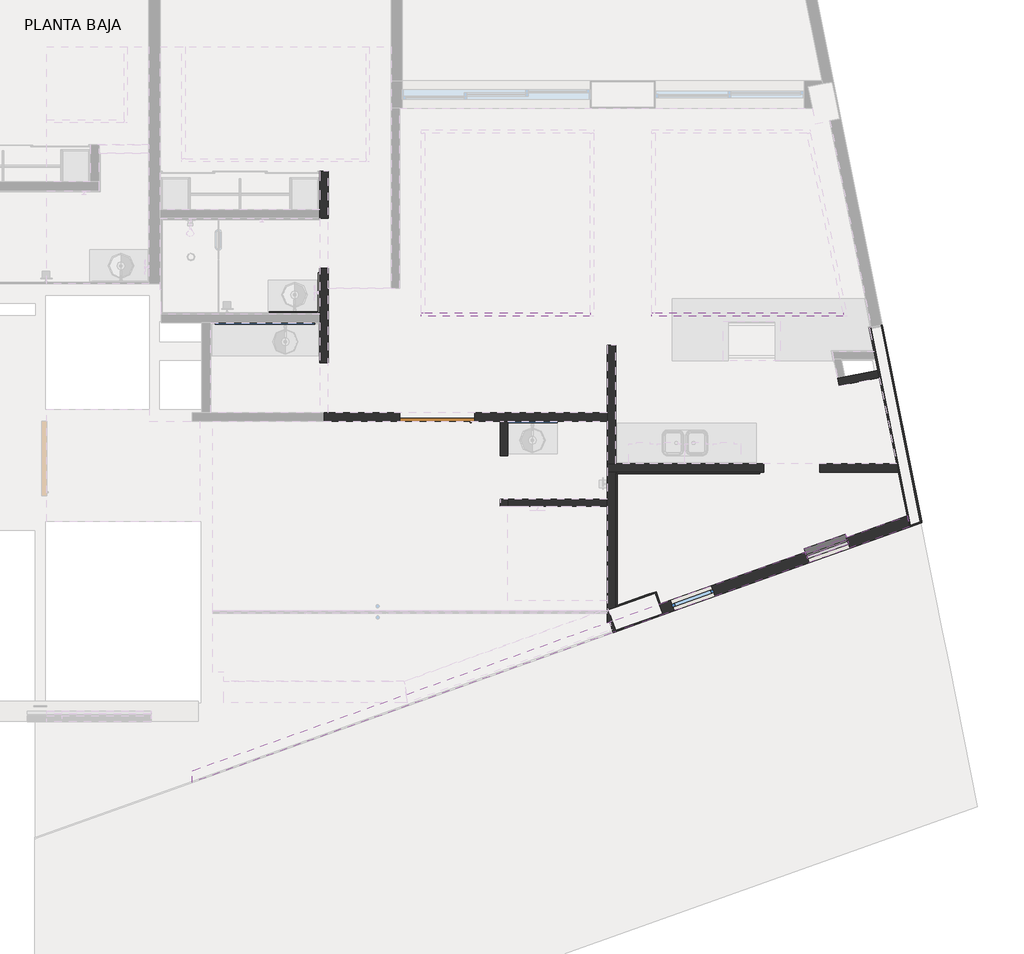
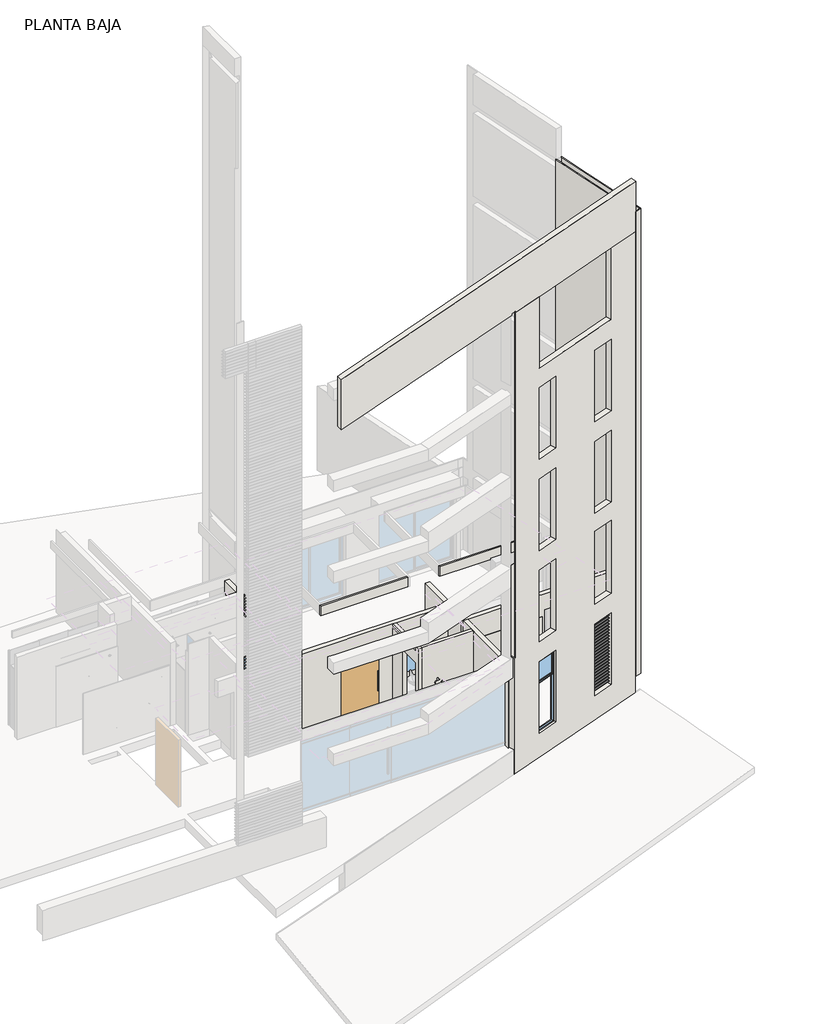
# One storey, part 5 of 8: 24 plates, 23 members, 20 walls, 4 windows, 1 door.
"""IFC4 building model written with IfcOpenShell, lengths in millimetres."""

from ifc_helpers import new_model, si_unit, origin, origin_with_axes, place, context, project, spatial, polyline, outline, extrude, faceted_brep, transform, mapped, element, save
from components import door_120_x_220_cm_93c824b4, montante_rectangular_montante_rectangular_1_5x5_1b1c74e0, plate_91745229, window_25a9a49d, window_47e7c2ce, window_0ac24249, window_e1a14afa

model = new_model("IFC4")

# Units and contexts
model_context = context("Model", 3, world=origin())
ifc_project = project(units=[si_unit("LENGTHUNIT", "METRE", prefix="MILLI")], contexts=[model_context])

# Site, building, storey
site = spatial("IfcSite", under=ifc_project)
building = spatial("IfcBuilding", under=site)
storey = spatial("IfcBuildingStorey", under=building, Name="PLANTA BAJA", Elevation=0.0)

# Door
placement = place(None, origin())
door_120_x_220_cm_shape = door_120_x_220_cm_93c824b4(model_context)
element("IfcDoor", 1, ObjectType="PUERTA ACCESO_PIVOT : 120 x 220 cm", at=placement, inside=storey, context=model_context, shape_type="MappedRepresentation", body=[
    mapped(door_120_x_220_cm_shape, transform((47131.3724956, 29794.010184, 0.0), x_axis=(-1.0, 0.0, 0.0), y_axis=(0.0, -1.0, 0.0), z_axis=(0.0, 0.0, 1.0))),
])

# Members
montante_rectangular_montante_rectangular_1_5x5_shape = montante_rectangular_montante_rectangular_1_5x5_1b1c74e0(model_context)
element("IfcMember", 2, ObjectType="Montante rectangular : Montante rectangular - 1.5x5", at=placement, inside=storey, context=model_context, shape_type="MappedRepresentation", body=[
    mapped(montante_rectangular_montante_rectangular_1_5x5_shape, transform((53319.7231991, 27770.5085935, 91.0416667), x_axis=(0.0, 0.0, 1.0), y_axis=(0.3356769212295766, -0.9419771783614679, 0.0), z_axis=(0.9419771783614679, 0.3356769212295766, 0.0))),
])
element("IfcMember", 3, ObjectType="Montante rectangular : Montante rectangular - 1.5x5", at=placement, inside=storey, context=model_context, shape_type="MappedRepresentation", body=[
    mapped(montante_rectangular_montante_rectangular_1_5x5_shape, transform((53319.7231991, 27770.5085935, 189.5833333), x_axis=(0.0, 0.0, 1.0), y_axis=(0.3356769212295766, -0.9419771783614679, 0.0), z_axis=(0.9419771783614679, 0.3356769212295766, 0.0))),
])
element("IfcMember", 4, ObjectType="Montante rectangular : Montante rectangular - 1.5x5", at=placement, inside=storey, context=model_context, shape_type="MappedRepresentation", body=[
    mapped(montante_rectangular_montante_rectangular_1_5x5_shape, transform((53319.7231991, 27770.5085935, 288.125), x_axis=(0.0, 0.0, 1.0), y_axis=(0.3356769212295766, -0.9419771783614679, 0.0), z_axis=(0.9419771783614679, 0.3356769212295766, 0.0))),
])
element("IfcMember", 5, ObjectType="Montante rectangular : Montante rectangular - 1.5x5", at=placement, inside=storey, context=model_context, shape_type="MappedRepresentation", body=[
    mapped(montante_rectangular_montante_rectangular_1_5x5_shape, transform((53319.7231991, 27770.5085935, 386.6666667), x_axis=(0.0, 0.0, 1.0), y_axis=(0.3356769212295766, -0.9419771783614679, 0.0), z_axis=(0.9419771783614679, 0.3356769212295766, 0.0))),
])
element("IfcMember", 6, ObjectType="Montante rectangular : Montante rectangular - 1.5x5", at=placement, inside=storey, context=model_context, shape_type="MappedRepresentation", body=[
    mapped(montante_rectangular_montante_rectangular_1_5x5_shape, transform((53319.7231991, 27770.5085935, 485.2083333), x_axis=(0.0, 0.0, 1.0), y_axis=(0.3356769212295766, -0.9419771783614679, 0.0), z_axis=(0.9419771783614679, 0.3356769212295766, 0.0))),
])
element("IfcMember", 7, ObjectType="Montante rectangular : Montante rectangular - 1.5x5", at=placement, inside=storey, context=model_context, shape_type="MappedRepresentation", body=[
    mapped(montante_rectangular_montante_rectangular_1_5x5_shape, transform((53319.7231991, 27770.5085935, 583.75), x_axis=(0.0, 0.0, 1.0), y_axis=(0.3356769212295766, -0.9419771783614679, 0.0), z_axis=(0.9419771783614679, 0.3356769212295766, 0.0))),
])
element("IfcMember", 8, ObjectType="Montante rectangular : Montante rectangular - 1.5x5", at=placement, inside=storey, context=model_context, shape_type="MappedRepresentation", body=[
    mapped(montante_rectangular_montante_rectangular_1_5x5_shape, transform((53319.7231991, 27770.5085935, 682.2916667), x_axis=(0.0, 0.0, 1.0), y_axis=(0.3356769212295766, -0.9419771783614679, 0.0), z_axis=(0.9419771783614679, 0.3356769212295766, 0.0))),
])
element("IfcMember", 9, ObjectType="Montante rectangular : Montante rectangular - 1.5x5", at=placement, inside=storey, context=model_context, shape_type="MappedRepresentation", body=[
    mapped(montante_rectangular_montante_rectangular_1_5x5_shape, transform((53319.7231991, 27770.5085935, 780.8333333), x_axis=(0.0, 0.0, 1.0), y_axis=(0.3356769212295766, -0.9419771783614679, 0.0), z_axis=(0.9419771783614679, 0.3356769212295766, 0.0))),
])
element("IfcMember", 10, ObjectType="Montante rectangular : Montante rectangular - 1.5x5", at=placement, inside=storey, context=model_context, shape_type="MappedRepresentation", body=[
    mapped(montante_rectangular_montante_rectangular_1_5x5_shape, transform((53319.7231991, 27770.5085935, 879.375), x_axis=(0.0, 0.0, 1.0), y_axis=(0.3356769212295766, -0.9419771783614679, 0.0), z_axis=(0.9419771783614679, 0.3356769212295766, 0.0))),
])
element("IfcMember", 11, ObjectType="Montante rectangular : Montante rectangular - 1.5x5", at=placement, inside=storey, context=model_context, shape_type="MappedRepresentation", body=[
    mapped(montante_rectangular_montante_rectangular_1_5x5_shape, transform((53319.7231991, 27770.5085935, 977.9166667), x_axis=(0.0, 0.0, 1.0), y_axis=(0.3356769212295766, -0.9419771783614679, 0.0), z_axis=(0.9419771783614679, 0.3356769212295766, 0.0))),
])
element("IfcMember", 12, ObjectType="Montante rectangular : Montante rectangular - 1.5x5", at=placement, inside=storey, context=model_context, shape_type="MappedRepresentation", body=[
    mapped(montante_rectangular_montante_rectangular_1_5x5_shape, transform((53319.7231991, 27770.5085935, 1076.4583333), x_axis=(0.0, 0.0, 1.0), y_axis=(0.3356769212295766, -0.9419771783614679, 0.0), z_axis=(0.9419771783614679, 0.3356769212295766, 0.0))),
])
element("IfcMember", 13, ObjectType="Montante rectangular : Montante rectangular - 1.5x5", at=placement, inside=storey, context=model_context, shape_type="MappedRepresentation", body=[
    mapped(montante_rectangular_montante_rectangular_1_5x5_shape, transform((53319.7231991, 27770.5085935, 1175.0), x_axis=(0.0, 0.0, 1.0), y_axis=(0.3356769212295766, -0.9419771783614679, 0.0), z_axis=(0.9419771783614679, 0.3356769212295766, 0.0))),
])
element("IfcMember", 14, ObjectType="Montante rectangular : Montante rectangular - 1.5x5", at=placement, inside=storey, context=model_context, shape_type="MappedRepresentation", body=[
    mapped(montante_rectangular_montante_rectangular_1_5x5_shape, transform((53319.7231991, 27770.5085935, 1273.5416667), x_axis=(0.0, 0.0, 1.0), y_axis=(0.3356769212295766, -0.9419771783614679, 0.0), z_axis=(0.9419771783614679, 0.3356769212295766, 0.0))),
])
element("IfcMember", 15, ObjectType="Montante rectangular : Montante rectangular - 1.5x5", at=placement, inside=storey, context=model_context, shape_type="MappedRepresentation", body=[
    mapped(montante_rectangular_montante_rectangular_1_5x5_shape, transform((53319.7231991, 27770.5085935, 1372.0833333), x_axis=(0.0, 0.0, 1.0), y_axis=(0.3356769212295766, -0.9419771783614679, 0.0), z_axis=(0.9419771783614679, 0.3356769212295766, 0.0))),
])
element("IfcMember", 16, ObjectType="Montante rectangular : Montante rectangular - 1.5x5", at=placement, inside=storey, context=model_context, shape_type="MappedRepresentation", body=[
    mapped(montante_rectangular_montante_rectangular_1_5x5_shape, transform((53319.7231991, 27770.5085935, 1470.625), x_axis=(0.0, 0.0, 1.0), y_axis=(0.3356769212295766, -0.9419771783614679, 0.0), z_axis=(0.9419771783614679, 0.3356769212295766, 0.0))),
])
element("IfcMember", 17, ObjectType="Montante rectangular : Montante rectangular - 1.5x5", at=placement, inside=storey, context=model_context, shape_type="MappedRepresentation", body=[
    mapped(montante_rectangular_montante_rectangular_1_5x5_shape, transform((53319.7231991, 27770.5085935, 1569.1666667), x_axis=(0.0, 0.0, 1.0), y_axis=(0.3356769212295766, -0.9419771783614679, 0.0), z_axis=(0.9419771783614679, 0.3356769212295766, 0.0))),
])
element("IfcMember", 18, ObjectType="Montante rectangular : Montante rectangular - 1.5x5", at=placement, inside=storey, context=model_context, shape_type="MappedRepresentation", body=[
    mapped(montante_rectangular_montante_rectangular_1_5x5_shape, transform((53319.7231991, 27770.5085935, 1667.7083333), x_axis=(0.0, 0.0, 1.0), y_axis=(0.3356769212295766, -0.9419771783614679, 0.0), z_axis=(0.9419771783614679, 0.3356769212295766, 0.0))),
])
element("IfcMember", 19, ObjectType="Montante rectangular : Montante rectangular - 1.5x5", at=placement, inside=storey, context=model_context, shape_type="MappedRepresentation", body=[
    mapped(montante_rectangular_montante_rectangular_1_5x5_shape, transform((53319.7231991, 27770.5085935, 1766.25), x_axis=(0.0, 0.0, 1.0), y_axis=(0.3356769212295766, -0.9419771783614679, 0.0), z_axis=(0.9419771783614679, 0.3356769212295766, 0.0))),
])
element("IfcMember", 20, ObjectType="Montante rectangular : Montante rectangular - 1.5x5", at=placement, inside=storey, context=model_context, shape_type="MappedRepresentation", body=[
    mapped(montante_rectangular_montante_rectangular_1_5x5_shape, transform((53319.7231991, 27770.5085935, 1864.7916667), x_axis=(0.0, 0.0, 1.0), y_axis=(0.3356769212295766, -0.9419771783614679, 0.0), z_axis=(0.9419771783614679, 0.3356769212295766, 0.0))),
])
element("IfcMember", 21, ObjectType="Montante rectangular : Montante rectangular - 1.5x5", at=placement, inside=storey, context=model_context, shape_type="MappedRepresentation", body=[
    mapped(montante_rectangular_montante_rectangular_1_5x5_shape, transform((53319.7231991, 27770.5085935, 1963.3333333), x_axis=(0.0, 0.0, 1.0), y_axis=(0.3356769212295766, -0.9419771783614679, 0.0), z_axis=(0.9419771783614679, 0.3356769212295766, 0.0))),
])
element("IfcMember", 22, ObjectType="Montante rectangular : Montante rectangular - 1.5x5", at=placement, inside=storey, context=model_context, shape_type="MappedRepresentation", body=[
    mapped(montante_rectangular_montante_rectangular_1_5x5_shape, transform((53319.7231991, 27770.5085935, 2061.875), x_axis=(0.0, 0.0, 1.0), y_axis=(0.3356769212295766, -0.9419771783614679, 0.0), z_axis=(0.9419771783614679, 0.3356769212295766, 0.0))),
])
element("IfcMember", 23, ObjectType="Montante rectangular : Montante rectangular - 1.5x5", at=placement, inside=storey, context=model_context, shape_type="MappedRepresentation", body=[
    mapped(montante_rectangular_montante_rectangular_1_5x5_shape, transform((53319.7231991, 27770.5085935, 2160.4166667), x_axis=(0.0, 0.0, 1.0), y_axis=(0.3356769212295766, -0.9419771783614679, 0.0), z_axis=(0.9419771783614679, 0.3356769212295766, 0.0))),
])
element("IfcMember", 24, ObjectType="Montante rectangular : Montante rectangular - 1.5x5", at=placement, inside=storey, context=model_context, shape_type="MappedRepresentation", body=[
    mapped(montante_rectangular_montante_rectangular_1_5x5_shape, transform((53319.7231991, 27770.5085935, 2258.9583333), x_axis=(0.0, 0.0, 1.0), y_axis=(0.3356769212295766, -0.9419771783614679, 0.0), z_axis=(0.9419771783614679, 0.3356769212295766, 0.0))),
])

# Plates
plate_shape = plate_91745229(model_context)
element("IfcPlate", 25, ObjectType="Panel del sistema vacío : Vacío", at=placement, inside=storey, context=model_context, shape_type="MappedRepresentation", body=[
    mapped(plate_shape, transform((52990.0311866, 27653.021671, 0.0), x_axis=(0.9419771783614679, 0.3356769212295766, 0.0), y_axis=(-0.3356769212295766, 0.9419771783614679, 0.0), z_axis=(0.0, 0.0, 1.0))),
])
element("IfcPlate", 26, ObjectType="Panel del sistema vacío : Vacío", at=placement, inside=storey, context=model_context, shape_type="MappedRepresentation", body=[
    mapped(plate_shape, transform((52990.0311866, 27653.021671, 98.5416667), x_axis=(0.9419771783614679, 0.3356769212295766, 0.0), y_axis=(-0.3356769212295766, 0.9419771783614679, 0.0), z_axis=(0.0, 0.0, 1.0))),
])
element("IfcPlate", 27, ObjectType="Panel del sistema vacío : Vacío", at=placement, inside=storey, context=model_context, shape_type="MappedRepresentation", body=[
    mapped(plate_shape, transform((52990.0311866, 27653.021671, 197.0833333), x_axis=(0.9419771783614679, 0.3356769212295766, 0.0), y_axis=(-0.3356769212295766, 0.9419771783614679, 0.0), z_axis=(0.0, 0.0, 1.0))),
])
element("IfcPlate", 28, ObjectType="Panel del sistema vacío : Vacío", at=placement, inside=storey, context=model_context, shape_type="MappedRepresentation", body=[
    mapped(plate_shape, transform((52990.0311866, 27653.021671, 295.625), x_axis=(0.9419771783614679, 0.3356769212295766, 0.0), y_axis=(-0.3356769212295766, 0.9419771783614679, 0.0), z_axis=(0.0, 0.0, 1.0))),
])
element("IfcPlate", 29, ObjectType="Panel del sistema vacío : Vacío", at=placement, inside=storey, context=model_context, shape_type="MappedRepresentation", body=[
    mapped(plate_shape, transform((52990.0311866, 27653.021671, 394.1666667), x_axis=(0.9419771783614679, 0.3356769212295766, 0.0), y_axis=(-0.3356769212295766, 0.9419771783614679, 0.0), z_axis=(0.0, 0.0, 1.0))),
])
element("IfcPlate", 30, ObjectType="Panel del sistema vacío : Vacío", at=placement, inside=storey, context=model_context, shape_type="MappedRepresentation", body=[
    mapped(plate_shape, transform((52990.0311866, 27653.021671, 492.7083333), x_axis=(0.9419771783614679, 0.3356769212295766, 0.0), y_axis=(-0.3356769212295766, 0.9419771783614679, 0.0), z_axis=(0.0, 0.0, 1.0))),
])
element("IfcPlate", 31, ObjectType="Panel del sistema vacío : Vacío", at=placement, inside=storey, context=model_context, shape_type="MappedRepresentation", body=[
    mapped(plate_shape, transform((52990.0311866, 27653.021671, 591.25), x_axis=(0.9419771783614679, 0.3356769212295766, 0.0), y_axis=(-0.3356769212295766, 0.9419771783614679, 0.0), z_axis=(0.0, 0.0, 1.0))),
])
element("IfcPlate", 32, ObjectType="Panel del sistema vacío : Vacío", at=placement, inside=storey, context=model_context, shape_type="MappedRepresentation", body=[
    mapped(plate_shape, transform((52990.0311866, 27653.021671, 689.7916667), x_axis=(0.9419771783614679, 0.3356769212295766, 0.0), y_axis=(-0.3356769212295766, 0.9419771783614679, 0.0), z_axis=(0.0, 0.0, 1.0))),
])
element("IfcPlate", 33, ObjectType="Panel del sistema vacío : Vacío", at=placement, inside=storey, context=model_context, shape_type="MappedRepresentation", body=[
    mapped(plate_shape, transform((52990.0311866, 27653.021671, 788.3333333), x_axis=(0.9419771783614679, 0.3356769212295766, 0.0), y_axis=(-0.3356769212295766, 0.9419771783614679, 0.0), z_axis=(0.0, 0.0, 1.0))),
])
element("IfcPlate", 34, ObjectType="Panel del sistema vacío : Vacío", at=placement, inside=storey, context=model_context, shape_type="MappedRepresentation", body=[
    mapped(plate_shape, transform((52990.0311866, 27653.021671, 886.875), x_axis=(0.9419771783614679, 0.3356769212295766, 0.0), y_axis=(-0.3356769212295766, 0.9419771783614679, 0.0), z_axis=(0.0, 0.0, 1.0))),
])
element("IfcPlate", 35, ObjectType="Panel del sistema vacío : Vacío", at=placement, inside=storey, context=model_context, shape_type="MappedRepresentation", body=[
    mapped(plate_shape, transform((52990.0311866, 27653.021671, 985.4166667), x_axis=(0.9419771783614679, 0.3356769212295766, 0.0), y_axis=(-0.3356769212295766, 0.9419771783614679, 0.0), z_axis=(0.0, 0.0, 1.0))),
])
element("IfcPlate", 36, ObjectType="Panel del sistema vacío : Vacío", at=placement, inside=storey, context=model_context, shape_type="MappedRepresentation", body=[
    mapped(plate_shape, transform((52990.0311866, 27653.021671, 1083.9583333), x_axis=(0.9419771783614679, 0.3356769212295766, 0.0), y_axis=(-0.3356769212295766, 0.9419771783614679, 0.0), z_axis=(0.0, 0.0, 1.0))),
])
element("IfcPlate", 37, ObjectType="Panel del sistema vacío : Vacío", at=placement, inside=storey, context=model_context, shape_type="MappedRepresentation", body=[
    mapped(plate_shape, transform((52990.0311866, 27653.021671, 1182.5), x_axis=(0.9419771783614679, 0.3356769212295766, 0.0), y_axis=(-0.3356769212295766, 0.9419771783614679, 0.0), z_axis=(0.0, 0.0, 1.0))),
])
element("IfcPlate", 38, ObjectType="Panel del sistema vacío : Vacío", at=placement, inside=storey, context=model_context, shape_type="MappedRepresentation", body=[
    mapped(plate_shape, transform((52990.0311866, 27653.021671, 1281.0416667), x_axis=(0.9419771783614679, 0.3356769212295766, 0.0), y_axis=(-0.3356769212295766, 0.9419771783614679, 0.0), z_axis=(0.0, 0.0, 1.0))),
])
element("IfcPlate", 39, ObjectType="Panel del sistema vacío : Vacío", at=placement, inside=storey, context=model_context, shape_type="MappedRepresentation", body=[
    mapped(plate_shape, transform((52990.0311866, 27653.021671, 1379.5833333), x_axis=(0.9419771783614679, 0.3356769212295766, 0.0), y_axis=(-0.3356769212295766, 0.9419771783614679, 0.0), z_axis=(0.0, 0.0, 1.0))),
])
element("IfcPlate", 40, ObjectType="Panel del sistema vacío : Vacío", at=placement, inside=storey, context=model_context, shape_type="MappedRepresentation", body=[
    mapped(plate_shape, transform((52990.0311866, 27653.021671, 1478.125), x_axis=(0.9419771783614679, 0.3356769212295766, 0.0), y_axis=(-0.3356769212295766, 0.9419771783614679, 0.0), z_axis=(0.0, 0.0, 1.0))),
])
element("IfcPlate", 41, ObjectType="Panel del sistema vacío : Vacío", at=placement, inside=storey, context=model_context, shape_type="MappedRepresentation", body=[
    mapped(plate_shape, transform((52990.0311866, 27653.021671, 1576.6666667), x_axis=(0.9419771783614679, 0.3356769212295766, 0.0), y_axis=(-0.3356769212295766, 0.9419771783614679, 0.0), z_axis=(0.0, 0.0, 1.0))),
])
element("IfcPlate", 42, ObjectType="Panel del sistema vacío : Vacío", at=placement, inside=storey, context=model_context, shape_type="MappedRepresentation", body=[
    mapped(plate_shape, transform((52990.0311866, 27653.021671, 1675.2083333), x_axis=(0.9419771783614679, 0.3356769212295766, 0.0), y_axis=(-0.3356769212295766, 0.9419771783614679, 0.0), z_axis=(0.0, 0.0, 1.0))),
])
element("IfcPlate", 43, ObjectType="Panel del sistema vacío : Vacío", at=placement, inside=storey, context=model_context, shape_type="MappedRepresentation", body=[
    mapped(plate_shape, transform((52990.0311866, 27653.021671, 1773.75), x_axis=(0.9419771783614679, 0.3356769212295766, 0.0), y_axis=(-0.3356769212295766, 0.9419771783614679, 0.0), z_axis=(0.0, 0.0, 1.0))),
])
element("IfcPlate", 44, ObjectType="Panel del sistema vacío : Vacío", at=placement, inside=storey, context=model_context, shape_type="MappedRepresentation", body=[
    mapped(plate_shape, transform((52990.0311866, 27653.021671, 1872.2916667), x_axis=(0.9419771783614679, 0.3356769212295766, 0.0), y_axis=(-0.3356769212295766, 0.9419771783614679, 0.0), z_axis=(0.0, 0.0, 1.0))),
])
element("IfcPlate", 45, ObjectType="Panel del sistema vacío : Vacío", at=placement, inside=storey, context=model_context, shape_type="MappedRepresentation", body=[
    mapped(plate_shape, transform((52990.0311866, 27653.021671, 1970.8333333), x_axis=(0.9419771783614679, 0.3356769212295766, 0.0), y_axis=(-0.3356769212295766, 0.9419771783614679, 0.0), z_axis=(0.0, 0.0, 1.0))),
])
element("IfcPlate", 46, ObjectType="Panel del sistema vacío : Vacío", at=placement, inside=storey, context=model_context, shape_type="MappedRepresentation", body=[
    mapped(plate_shape, transform((52990.0311866, 27653.021671, 2069.375), x_axis=(0.9419771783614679, 0.3356769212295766, 0.0), y_axis=(-0.3356769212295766, 0.9419771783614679, 0.0), z_axis=(0.0, 0.0, 1.0))),
])
element("IfcPlate", 47, ObjectType="Panel del sistema vacío : Vacío", at=placement, inside=storey, context=model_context, shape_type="MappedRepresentation", body=[
    mapped(plate_shape, transform((52990.0311866, 27653.021671, 2167.9166667), x_axis=(0.9419771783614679, 0.3356769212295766, 0.0), y_axis=(-0.3356769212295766, 0.9419771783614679, 0.0), z_axis=(0.0, 0.0, 1.0))),
])
element("IfcPlate", 48, ObjectType="Panel del sistema vacío : Vacío", at=placement, inside=storey, context=model_context, shape_type="MappedRepresentation", body=[
    mapped(plate_shape, transform((52990.0311866, 27653.021671, 2266.4583333), x_axis=(0.9419771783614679, 0.3356769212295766, 0.0), y_axis=(-0.3356769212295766, 0.9419771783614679, 0.0), z_axis=(0.0, 0.0, 1.0))),
])

# Walls
element("IfcWall", 49, ObjectType="Muro block 12cms_int_ductos", at=placement, inside=storey, context=model_context, shape_type="Brep", body=[
    faceted_brep([(53171.4946911, 30294.866239, 0.0), (53820.4344465, 30424.8416261, 0.0), (53820.4344465, 30424.8416261, 3000.0), (53171.4946911, 30294.866239, 3000.0), (53147.9280777, 30412.5293799, 0.0), (53147.9280777, 30412.5293799, 3000.0), (53265.5912187, 30436.0959933, 3000.0), (53796.8678331, 30542.5047671, 3000.0), (53796.8678331, 30542.5047671, 0.0), (53265.5912187, 30436.0959933, 0.0)], [[[0, 1, 2, 3]], [[4, 5, 6, 7, 8, 9]], [[1, 0, 4, 9, 8]], [[3, 2, 7, 6, 5]], [[0, 3, 5, 4]], [[2, 1, 8, 7]]]),
])
element("IfcWall", 50, ObjectType="TABLAROCA - 2 CAPAS 1/2\"", at=placement, inside=storey, context=model_context, shape_type="Brep", body=[
    faceted_brep([(47727.1059119, 28356.610184, 2720.0), (47727.1059119, 29724.010184, 2720.0), (47727.1059119, 29724.010184, 2652.7), (47727.1059119, 28474.010184, 2652.7), (47727.1059119, 28474.010184, 2600.0), (47727.1059119, 29724.010184, 2600.0), (47727.1059119, 29724.010184, 0.0), (47727.1059119, 29174.010184, 0.0), (47727.1059119, 29174.010184, 2200.0), (47727.1059119, 28474.010184, 2200.0), (47727.1059119, 28474.010184, 0.0), (47727.1059119, 28356.610184, 0.0), (47727.1059119, 28356.610184, 2600.0), (47727.1059119, 28356.610184, 2652.7), (47844.5059119, 29724.010184, 2720.0), (47844.5059119, 28474.010184, 2720.0), (47844.5059119, 28356.610184, 2720.0), (47844.5059119, 28356.610184, 2652.7), (47844.5059119, 28356.610184, 2600.0), (47844.5059119, 28356.610184, 0.0), (47844.5059119, 28474.010184, 0.0), (47844.5059119, 28474.010184, 2200.0), (47844.5059119, 29174.010184, 2200.0), (47844.5059119, 29174.010184, 0.0), (47844.5059119, 29724.010184, 0.0), (47844.5059119, 29724.010184, 2600.0), (47844.5059119, 28474.010184, 2600.0), (47844.5059119, 28474.010184, 2652.7), (47844.5059119, 29724.010184, 2652.7)], [[[0, 1, 2, 3, 4, 5, 6, 7, 8, 9, 10, 11, 12, 13]], [[14, 15, 16, 17, 18, 19, 20, 21, 22, 23, 24, 25, 26, 27, 28]], [[6, 24, 23, 7]], [[19, 11, 10, 20]], [[1, 0, 16, 15, 14]], [[1, 14, 28, 2]], [[24, 6, 5, 25]], [[11, 19, 18, 17, 16, 0, 13, 12]], [[10, 9, 21, 20]], [[9, 8, 22, 21]], [[8, 7, 23, 22]], [[27, 3, 2, 28]], [[4, 26, 25, 5]], [[3, 27, 26, 4]]]),
])
element("IfcWall", 51, ObjectType="TABLAROCA - 2 CAPAS 1/2\"", at=placement, inside=storey, context=model_context, shape_type="Brep", body=[
    faceted_brep([(47844.5059119, 28356.610184, 0.0), (49444.5059119, 28356.610184, 0.0), (49444.5059119, 28356.610184, 2720.0), (47844.5059119, 28356.610184, 2720.0), (47844.5059119, 28474.010184, 0.0), (47844.5059119, 28474.010184, 2200.0), (47844.5059119, 28474.010184, 2600.0), (47844.5059119, 28474.010184, 2652.7), (47844.5059119, 28474.010184, 2720.0), (49444.5059119, 28474.010184, 2720.0), (49444.5059119, 28474.010184, 0.0)], [[[0, 1, 2, 3]], [[4, 5, 6, 7, 8, 9, 10]], [[1, 0, 4, 10]], [[3, 2, 9, 8]], [[0, 3, 8, 7, 6, 5, 4]], [[2, 1, 10, 9]]]),
])
element("IfcWall", 52, ObjectType="Plafond tablaroca", at=placement, inside=storey, context=model_context, shape_type="Brep", body=[
    faceted_brep([(49174.5059119, 31464.0100656, 2402.7), (46514.5059119, 31464.0100656, 2402.7), (46461.8059119, 31464.0100656, 2402.7), (46461.8059119, 31464.0100656, 2720.0), (46514.5059119, 31464.0100656, 2720.0), (49174.5059119, 31464.0100656, 2720.0), (49174.5059119, 31411.3100656, 2402.7), (49174.5059119, 31411.3100656, 2720.0), (46461.8059119, 31411.3100656, 2720.0), (46461.8059119, 31411.3100656, 2402.7)], [[[0, 1, 2, 3, 4, 5]], [[6, 7, 8, 9]], [[5, 4, 3, 8, 7]], [[0, 5, 7, 6]], [[3, 2, 9, 8]], [[2, 1, 0, 6, 9]]]),
])
element("IfcWall", 53, ObjectType="Plafond tablaroca", at=placement, inside=storey, context=model_context, shape_type="Brep", body=[
    faceted_brep([(53234.9521938, 31464.0100656, 2402.7), (50214.4822189, 31464.0100656, 2402.7), (50161.7822189, 31464.0100656, 2402.7), (50161.7822189, 31464.0100656, 2720.0), (50214.4822189, 31464.0100656, 2720.0), (53234.9521938, 31464.0100656, 2720.0), (53245.5074153, 31411.3100656, 2402.7), (53245.5074153, 31411.3100656, 2720.0), (50161.7822189, 31411.3100656, 2720.0), (50161.7822189, 31411.3100656, 2402.7)], [[[0, 1, 2, 3, 4, 5]], [[6, 7, 8, 9]], [[5, 4, 3, 8, 7]], [[0, 5, 7, 6]], [[3, 2, 9, 8]], [[2, 1, 0, 6, 9]]]),
])
element("IfcWall", 54, ObjectType="Muro solo enjarre -2cms", at=placement, inside=storey, context=model_context, shape_type="Brep", body=[
    faceted_brep([(53659.7028791, 31227.3405166, 15000.0), (53659.7028791, 31227.3405166, -280.0), (54265.4326509, 28203.0592396, -280.0), (54297.1864274, 28044.5193158, -280.0), (54297.1864274, 28044.5193158, 15000.0), (53820.4344465, 30424.8416261, 15000.0), (53796.8678331, 30542.5047671, 15000.0), (53760.5143431, 30724.0100923, 15000.0), (53736.479683, 30844.0100923, 15000.0), (53661.6667636, 31217.5352548, 15000.0), (53679.3134026, 31231.2682854, -280.0), (53679.3134026, 31231.2682854, 15000.0), (53683.2411715, 31211.657762, 15000.0), (54316.2248011, 28051.3037081, 15000.0), (54316.2248011, 28051.3037081, -280.0), (53683.2411715, 31211.657762, -280.0)], [[[0, 1, 2, 3, 4, 5, 6, 7, 8, 9]], [[10, 11, 12, 13, 14, 15]], [[3, 2, 1, 10, 15, 14]], [[0, 9, 8, 7, 6, 5, 4, 13, 12, 11]], [[3, 14, 13, 4]], [[0, 11, 10, 1]]]),
])
element("IfcWall", 55, ObjectType="Muro solo enjarre -2cms", at=placement, inside=storey, context=model_context, shape_type="Brep", body=[
    faceted_brep([(54301.1556495, 28024.7018254, -280.0), (54501.0585736, 28095.9379441, -280.0), (54501.0585736, 28095.9379441, 15000.0), (54301.1556495, 28024.7018254, 15000.0), (54301.1556495, 28024.7018254, 14350.0), (54497.0893515, 28115.7554346, -280.0), (54478.0509778, 28108.9710423, -280.0), (54316.2248011, 28051.3037081, -280.0), (54297.1864274, 28044.5193158, -280.0), (54297.1864274, 28044.5193158, 14350.0), (54297.1864274, 28044.5193158, 14720.0), (54297.1864274, 28044.5193158, 15000.0), (54316.2248011, 28051.3037081, 15000.0), (54478.0509778, 28108.9710423, 15000.0), (54497.0893515, 28115.7554346, 15000.0)], [[[0, 1, 2, 3, 4]], [[5, 6, 7, 8, 9, 10, 11, 12, 13, 14]], [[1, 0, 8, 7, 6, 5]], [[3, 2, 14, 13, 12, 11]], [[2, 1, 5, 14]], [[8, 0, 4, 3, 11, 10, 9]]]),
])
element("IfcWall", 56, ObjectType="Muro solo enjarre -2cms", at=placement, inside=storey, context=model_context, shape_type="Brep", body=[
    faceted_brep([(54497.0893515, 28115.7554346, -280.0), (53865.6133758, 31268.5820899, -280.0), (53865.6133758, 31268.5820899, 15000.0), (54074.829408, 30224.0104696, 15000.0), (54497.0893515, 28115.7554346, 15000.0), (54478.0509778, 28108.9710423, -280.0), (54478.0509778, 28108.9710423, 15000.0), (53849.9306212, 31245.0437975, 15000.0), (53846.0028523, 31264.654321, 15000.0), (53846.0028523, 31264.654321, 12000.0), (53846.0028523, 31264.654321, 11720.0), (53846.0028523, 31264.654321, 9000.0), (53846.0028523, 31264.654321, 8720.0), (53846.0028523, 31264.654321, 6000.0), (53846.0028523, 31264.654321, 5720.0), (53846.0028523, 31264.654321, 3000.0), (53846.0028523, 31264.654321, 2720.0), (53846.0028523, 31264.654321, 0.0), (53846.0028523, 31264.654321, -280.0), (53849.9306212, 31245.0437975, -280.0)], [[[0, 1, 2, 3, 4]], [[5, 6, 7, 8, 9, 10, 11, 12, 13, 14, 15, 16, 17, 18, 19]], [[1, 0, 5, 19, 18]], [[4, 3, 2, 8, 7, 6]], [[0, 4, 6, 5]], [[2, 1, 18, 17, 16, 15, 14, 13, 12, 11, 10, 9, 8]]]),
])
element("IfcWall", 57, ObjectType="Cerámica baño", at=placement, inside=storey, context=model_context, shape_type="SweptSolid", body=[
    extrude(outline(polyline([(44824.5251366, 32114.0113856), (44824.5251366, 31464.0104754), (44804.5251366, 31464.0104754), (44804.5251366, 32114.0113856), (44824.5251366, 32114.0113856)])), origin_with_axes(), (0.0, 0.0, 1.0), 1000.0),
])
element("IfcWall", 58, ObjectType="Cerámica baño", at=placement, inside=storey, context=model_context, shape_type="Brep", body=[
    faceted_brep([(51894.5059119, 28904.0100923, 0.0), (49584.5059119, 28904.0100923, 0.0), (49584.5059119, 28904.0100923, 2000.0), (51894.5059119, 28904.0100923, 2000.0), (51894.5059119, 28884.0100923, 0.0), (51894.5059119, 28884.0100923, 2000.0), (49604.5059119, 28884.0100923, 2000.0), (49584.5059119, 28884.0100923, 2000.0), (49584.5059119, 28884.0100923, 0.0), (49604.5059119, 28884.0100923, 0.0)], [[[0, 1, 2, 3]], [[4, 5, 6, 7, 8, 9]], [[1, 0, 4, 9, 8]], [[3, 2, 7, 6, 5]], [[0, 3, 5, 4]], [[2, 1, 8, 7]]]),
])
element("IfcWall", 59, ObjectType="Cerámica baño", at=placement, inside=storey, context=model_context, shape_type="SweptSolid", body=[
    extrude(outline(polyline([(49584.5059119, 26757.929668), (49584.5059119, 28884.0100923), (49604.5059119, 28884.0100923), (49604.5059119, 26765.0567392), (49584.5059119, 26757.929668)])), origin_with_axes(), (0.0, 0.0, 1.0), 2000.0),
])
element("IfcWall", 60, ObjectType="Muro block 14cms_int", at=placement, inside=storey, context=model_context, shape_type="Brep", body=[
    faceted_brep([(44894.5251366, 29724.010184, 2720.0), (44894.5251366, 29724.010184, 0.0), (46114.5059119, 29724.010184, 0.0), (46114.5059119, 29724.010184, 2200.0), (47314.5059119, 29724.010184, 2200.0), (47314.5059119, 29724.010184, 0.0), (47727.1059119, 29724.010184, 0.0), (47844.5059119, 29724.010184, 0.0), (49444.5059119, 29724.010184, 0.0), (49444.5059119, 29724.010184, 2720.0), (47844.5059119, 29724.010184, 2720.0), (47727.1059119, 29724.010184, 2720.0), (44894.5251366, 29864.010184, 0.0), (44894.5251366, 29864.010184, 2720.0), (44964.5251366, 29864.010184, 2720.0), (49444.5059119, 29864.010184, 2720.0), (49444.5059119, 29864.010184, 0.0), (47314.5059119, 29864.010184, 0.0), (47314.5059119, 29864.010184, 2200.0), (46114.5059119, 29864.010184, 2200.0), (46114.5059119, 29864.010184, 0.0)], [[[0, 1, 2, 3, 4, 5, 6, 7, 8, 9, 10, 11]], [[12, 13, 14, 15, 16, 17, 18, 19, 20]], [[1, 12, 20, 2]], [[16, 8, 7, 6, 5, 17]], [[1, 0, 13, 12]], [[19, 3, 2, 20]], [[3, 19, 18, 4]], [[4, 18, 17, 5]], [[0, 11, 10, 9, 15, 14, 13]], [[9, 8, 16, 15]]]),
])
element("IfcWall", 61, ObjectType="Muro block 14cms_int", at=placement, inside=storey, context=model_context, shape_type="Brep", body=[
    faceted_brep([(51964.5059119, 29044.0100923, 0.0), (49584.5059119, 29044.0100923, 0.0), (49444.5059119, 29044.0100923, 0.0), (49444.5059119, 29044.0100923, 2720.0), (49584.5059119, 29044.0100923, 2720.0), (54096.9995848, 29044.0100923, 2720.0), (54096.9995848, 29044.0100923, 0.0), (52864.5059119, 29044.0100923, 0.0), (52864.5059119, 29044.0100923, 2200.0), (51964.5059119, 29044.0100923, 2200.0), (52864.5059119, 28904.0100923, 0.0), (54125.0400216, 28904.0100923, 0.0), (54125.0400216, 28904.0100923, 2720.0), (49584.5059119, 28904.0100923, 2720.0), (49444.5059119, 28904.0100923, 2720.0), (49444.5059119, 28904.0100923, 0.0), (49584.5059119, 28904.0100923, 0.0), (51964.5059119, 28904.0100923, 0.0), (51964.5059119, 28904.0100923, 2200.0), (52864.5059119, 28904.0100923, 2200.0)], [[[0, 1, 2, 3, 4, 5, 6, 7, 8, 9]], [[10, 11, 12, 13, 14, 15, 16, 17, 18, 19]], [[11, 10, 7, 6]], [[2, 1, 0, 17, 16, 15]], [[5, 4, 3, 14, 13, 12]], [[11, 6, 5, 12]], [[8, 7, 10, 19]], [[9, 8, 19, 18]], [[0, 9, 18, 17]], [[2, 15, 14, 3]]]),
])
element("IfcWall", 62, ObjectType="Muro block 14cms_int", at=placement, inside=storey, context=model_context, shape_type="Brep", body=[
    faceted_brep([(44964.5251366, 29864.010184, 2200.0), (44964.5251366, 30664.010184, 2200.0), (44964.5251366, 30664.010184, 0.0), (44964.5251366, 32184.0113856, 0.0), (44964.5251366, 32184.0113856, 2200.0), (44964.5251366, 32984.0113856, 2200.0), (44964.5251366, 32984.0113856, 0.0), (44964.5251366, 33744.0113898, 0.0), (44964.5251366, 33744.0113898, 2720.0), (44964.5251366, 29864.010184, 2720.0), (44824.5251366, 30664.010184, 2200.0), (44824.5251366, 29864.010184, 2200.0), (44824.5251366, 29864.010184, 2720.0), (44824.5251366, 31304.0104754, 2720.0), (44824.5251366, 31444.0104754, 2720.0), (44824.5251366, 32984.0113856, 2720.0), (44824.5251366, 33124.0113856, 2720.0), (44824.5251366, 33744.0113898, 2720.0), (44824.5251366, 33744.0113898, 0.0), (44824.5251366, 33124.0113856, 0.0), (44824.5251366, 32984.0113856, 0.0), (44824.5251366, 32984.0113856, 2200.0), (44824.5251366, 32184.0113856, 2200.0), (44824.5251366, 32184.0113856, 0.0), (44824.5251366, 31444.0104754, 0.0), (44824.5251366, 31304.0104754, 0.0), (44824.5251366, 30664.010184, 0.0), (44894.5251366, 29864.010184, 2720.0)], [[[0, 1, 2, 3, 4, 5, 6, 7, 8, 9]], [[10, 11, 12, 13, 14, 15, 16, 17, 18, 19, 20, 21, 22, 23, 24, 25, 26]], [[18, 7, 6, 20, 19]], [[2, 26, 25, 24, 23, 3]], [[7, 18, 17, 8]], [[10, 1, 0, 11]], [[1, 10, 26, 2]], [[5, 21, 20, 6]], [[21, 5, 4, 22]], [[22, 4, 3, 23]], [[11, 0, 9, 27, 12]], [[9, 8, 17, 16, 15, 14, 13, 12, 27]]]),
])
element("IfcWall", 63, ObjectType="Muro block 14cms_int", at=placement, inside=storey, context=model_context, shape_type="Brep", body=[
    faceted_brep([(49444.5059119, 30944.0100923, 0.0), (49444.5059119, 29864.010184, 0.0), (49444.5059119, 29724.010184, 0.0), (49444.5059119, 29044.0100923, 0.0), (49444.5059119, 29044.0100923, 2720.0), (49444.5059119, 29724.010184, 2720.0), (49444.5059119, 29864.010184, 2720.0), (49444.5059119, 30944.0100923, 2720.0), (49584.5059119, 29044.0100923, 0.0), (49584.5059119, 30944.0100923, 0.0), (49584.5059119, 30944.0100923, 2720.0), (49584.5059119, 29044.0100923, 2720.0)], [[[0, 1, 2, 3, 4, 5, 6, 7]], [[8, 9, 10, 11]], [[3, 2, 1, 0, 9, 8]], [[9, 0, 7, 10]], [[3, 8, 11, 4]], [[7, 6, 5, 4, 11, 10]]]),
])
element("IfcWall", 64, ObjectType="Muro block 14cms_int", at=placement, inside=storey, context=model_context, shape_type="Brep", body=[
    faceted_brep([(50098.5317625, 26941.10461, 0.0), (49604.5059119, 26765.0567392, 0.0), (49584.5059119, 26757.929668, 0.0), (49584.5059119, 26757.929668, 2000.0), (49584.5059119, 26757.929668, 5720.0), (50098.5317625, 26941.10461, 5720.0), (50105.2453009, 26922.2650664, 0.0), (49584.5059119, 26736.6977311, 0.0), (50105.2453009, 26922.2650664, 5720.0), (49584.5059119, 26736.6977311, 5720.0), (49584.5059119, 26736.6977311, 3000.0), (49584.5059119, 26736.6977311, 2720.0)], [[[0, 1, 2, 3, 4, 5]], [[2, 1, 0, 6, 7]], [[7, 6, 8, 9, 10, 11]], [[5, 4, 9, 8]], [[0, 5, 8, 6]], [[4, 3, 2, 7, 11, 10, 9]]]),
])
element("IfcWall", 65, ObjectType="Muro block 14cms_int", at=placement, inside=storey, context=model_context, shape_type="Brep", body=[
    faceted_brep([(50098.5317625, 26941.10461, 5720.0), (50098.5317625, 26941.10461, 3000.0), (50098.5317625, 26941.10461, 0.0), (50105.2453009, 26922.2650664, 0.0), (50105.2453009, 26922.2650664, 3000.0), (50105.2453009, 26922.2650664, 5720.0), (50300.9007209, 26790.2841715, 0.0), (50230.4085675, 26988.0993789, 0.0), (50230.4085675, 26988.0993789, 5720.0), (50277.4033364, 26856.222574, 5720.0), (50300.9007209, 26790.2841715, 5720.0), (50281.8662696, 26783.501177, 0.0), (50218.0876546, 26962.4768409, 0.0), (50218.0876546, 26962.4768409, 5720.0), (50281.8662696, 26783.501177, 5720.0)], [[[0, 1, 2, 3, 4, 5]], [[6, 7, 8, 9, 10]], [[7, 6, 11, 12, 3, 2]], [[12, 13, 5, 4, 3]], [[13, 12, 11, 14]], [[6, 10, 14, 11]], [[10, 9, 8, 0, 5, 13, 14]], [[2, 1, 0, 8, 7]]]),
])
element("IfcWall", 66, ObjectType="Muro block 14cms_int", at=placement, inside=storey, context=model_context, shape_type="Brep", body=[
    faceted_brep([(49444.5059119, 28904.0100923, 0.0), (49444.5059119, 28474.010184, 0.0), (49444.5059119, 28356.610184, 0.0), (49444.5059119, 26485.1048323, 0.0), (49444.5059119, 26485.1048323, 2350.0), (49444.5059119, 26708.0401696, 2350.0), (49444.5059119, 26708.0401696, 2720.0), (49444.5059119, 28356.610184, 2720.0), (49444.5059119, 28474.010184, 2720.0), (49444.5059119, 28904.0100923, 2720.0), (49584.5059119, 28904.0100923, 0.0), (49584.5059119, 28904.0100923, 2720.0), (49584.5059119, 26736.6977311, 2720.0), (49584.5059119, 26736.6977311, 0.0), (49584.5059119, 26757.929668, 0.0), (49464.5059119, 26693.9353039, 0.0), (49528.284527, 26514.95964, 0.0), (49457.4408353, 26712.6495756, 2720.0), (49484.294989, 26499.2838115, 2720.0), (49528.284527, 26514.95964, 2720.0), (49464.5059119, 26693.9353039, 2720.0), (49484.294989, 26499.2838115, 2350.0), (49457.4408353, 26712.6495756, 2350.0), (49528.284527, 26514.95964, 2350.0)], [[[0, 1, 2, 3, 4, 5, 6, 7, 8, 9]], [[10, 11, 12, 13, 14]], [[3, 2, 1, 0, 10, 14, 13, 15, 16]], [[10, 0, 9, 11]], [[9, 8, 7, 6, 17, 18, 19, 20, 12, 11]], [[5, 4, 21, 22]], [[4, 3, 16, 23, 21]], [[5, 22, 17, 6]], [[22, 21, 18, 17]], [[18, 21, 23, 19]], [[15, 20, 19, 23, 16]], [[20, 15, 13, 12]]]),
])
element("IfcWall", 67, ObjectType="Muro block 18cms_ext", at=placement, inside=storey, context=model_context, shape_type="Brep", body=[
    faceted_brep([(42782.6275078, 24111.1207447, 16000.0), (42962.6275078, 24175.2643855, 16000.0), (54265.4326509, 28203.0592396, 16000.0), (54265.4326509, 28203.0592396, 15000.0), (42802.6275078, 24118.2478159, 15000.0), (42802.6275078, 24118.2478159, 14720.0), (49444.5059119, 26485.1048323, 14720.0), (49444.5059119, 26485.1048323, 14350.0), (42962.6275078, 24175.2643855, 14350.0), (42782.6275078, 24111.1207447, 14350.0), (54265.4326509, 28203.0592396, 14350.0), (53287.6461673, 27854.621545, 14350.0), (50461.7146322, 26847.5907813, 14350.0), (50281.8662696, 26783.501177, 14350.0), (49584.5059119, 26534.9943307, 14350.0), (49584.5059119, 26534.9943307, 14720.0), (50281.8662696, 26783.501177, 14720.0), (50300.9007209, 26790.2841715, 14720.0), (54265.4326509, 28203.0592396, 14720.0), (54301.1556495, 28024.7018254, 16000.0), (42782.6275078, 23920.0333127, 16000.0), (42782.6275078, 23920.0333127, 14350.0), (49444.5059119, 26294.0174003, 14350.0), (49444.5059119, 26294.0174003, 14400.0), (49584.5059119, 26343.9068987, 14400.0), (49584.5059119, 26343.9068987, 14350.0), (50522.136478, 26678.0348892, 14350.0), (53348.0680131, 27685.0656529, 14350.0), (54301.1556495, 28024.7018254, 14350.0), (54301.1556495, 28024.7018254, 15000.0), (49444.5059119, 26348.990003, 14350.0), (49444.5059119, 26347.0972425, 14350.0), (49584.5059119, 26365.1388356, 14350.0), (54297.1864274, 28044.5193158, 14720.0), (54297.1864274, 28044.5193158, 15000.0), (49584.5059119, 26365.1388356, 14400.0), (49584.5059119, 26396.9867409, 14400.0), (49584.5059119, 26396.9867409, 14720.0), (49444.5059119, 26347.0972425, 14720.0), (49444.5059119, 26347.0972425, 14400.0), (42802.6275078, 23948.3923208, 14720.0), (49571.9225267, 26392.5026068, 14720.0), (42802.6275078, 23948.3923208, 15000.0), (49571.9225267, 26392.5026068, 14400.0)], [[[0, 1, 2, 3, 4, 5, 6, 7, 8, 9]], [[10, 11, 12, 13, 14, 15, 16, 17, 18]], [[19, 20, 21, 22, 23, 24, 25, 26, 27, 28, 29]], [[21, 9, 8, 7, 30, 31, 22]], [[10, 28, 27, 26, 25, 32, 14, 13, 12, 11]], [[2, 1, 0, 20, 19]], [[20, 0, 9, 21]], [[2, 19, 29, 28, 10, 18, 33, 34, 3]], [[15, 14, 32, 25, 24, 35, 36, 37]], [[7, 6, 38, 39, 23, 22, 31, 30]], [[5, 40, 33, 18, 17, 16, 15, 37, 41, 38, 6]], [[42, 4, 3, 34]], [[40, 42, 34, 33]], [[42, 40, 5, 4]], [[36, 35, 24, 23, 39, 43]], [[37, 36, 43, 39, 38, 41]]]),
])
element("IfcWall", 68, ObjectType="Muro block 18cms_ext", at=placement, inside=storey, context=model_context, shape_type="Brep", body=[
    faceted_brep([(50461.7146322, 26847.5907813, 14350.0), (50461.7146322, 26847.5907813, 12000.0), (52024.4822189, 27404.4885747, 12000.0), (52164.4822189, 27454.3780732, 12000.0), (53287.6461673, 27854.621545, 12000.0), (53287.6461673, 27854.621545, 14350.0), (54265.4326509, 28203.0592396, 14350.0), (54265.4326509, 28203.0592396, 11000.0), (54265.4326509, 28203.0592396, 9000.0), (54265.4326509, 28203.0592396, 8000.0), (54265.4326509, 28203.0592396, 6000.0), (54265.4326509, 28203.0592396, -280.0), (54255.913464, 28199.6670435, -280.0), (54255.913464, 28199.6670435, -1000.0), (50281.8662696, 26783.501177, -1000.0), (50281.8662696, 26783.501177, 0.0), (50281.8662696, 26783.501177, 3000.0), (50281.8662696, 26783.501177, 5720.0), (50281.8662696, 26783.501177, 6000.0), (50281.8662696, 26783.501177, 8720.0), (50281.8662696, 26783.501177, 9000.0), (50281.8662696, 26783.501177, 11720.0), (50281.8662696, 26783.501177, 14350.0), (50461.7146322, 26847.5907813, 5350.0), (50461.7146322, 26847.5907813, 3000.0), (51121.0986571, 27082.5646262, 3000.0), (51121.0986571, 27082.5646262, 5350.0), (50461.7146322, 26847.5907813, 8350.0), (50461.7146322, 26847.5907813, 6000.0), (51121.0986571, 27082.5646262, 6000.0), (51121.0986571, 27082.5646262, 8350.0), (50461.7146322, 26847.5907813, 11350.0), (50461.7146322, 26847.5907813, 9000.0), (51121.0986571, 27082.5646262, 9000.0), (51121.0986571, 27082.5646262, 11350.0), (53289.5122761, 27855.2865395, 5400.0), (52630.1282513, 27620.3126947, 5400.0), (52630.1282513, 27620.3126947, 3000.0), (53289.5122761, 27855.2865395, 3000.0), (53289.5122761, 27855.2865395, 8350.0), (52630.1282513, 27620.3126947, 8350.0), (52630.1282513, 27620.3126947, 6000.0), (53289.5122761, 27855.2865395, 6000.0), (53289.5122761, 27855.2865395, 11350.0), (52630.1282513, 27620.3126947, 11350.0), (52630.1282513, 27620.3126947, 9000.0), (53289.5122761, 27855.2865395, 9000.0), (53289.5122761, 27855.2865395, 2350.0), (52630.1282513, 27620.3126947, 2350.0), (52630.1282513, 27620.3126947, 0.0), (53289.5122761, 27855.2865395, 0.0), (50461.7146322, 26847.5907813, 2350.0), (50461.7146322, 26847.5907813, 0.0), (51121.0986571, 27082.5646262, 0.0), (51121.0986571, 27082.5646262, 2350.0), (49528.284527, 26514.95964, 3000.0), (49528.284527, 26514.95964, -1000.0), (49484.294989, 26499.2838115, -1000.0), (49484.294989, 26499.2838115, -280.0), (49484.294989, 26499.2838115, 0.0), (49484.294989, 26499.2838115, 2350.0), (49484.294989, 26499.2838115, 3000.0), (49527.9329888, 26514.8343681, 3000.0), (49544.7168348, 26329.7279194, -1000.0), (54291.6364626, 28021.3096292, -1000.0), (54291.6364626, 28021.3096292, -280.0), (54301.1556495, 28024.7018254, -280.0), (54301.1556495, 28024.7018254, 14350.0), (53348.0680131, 27685.0656529, 14350.0), (53348.0680131, 27685.0656529, 12000.0), (50522.136478, 26678.0348892, 12000.0), (50522.136478, 26678.0348892, 14350.0), (49584.5059119, 26343.9068987, 14350.0), (49584.5059119, 26343.9068987, 3000.0), (49544.7168348, 26329.7279194, 3000.0), (49544.7168348, 26329.7279194, 0.0), (50522.136478, 26678.0348892, 3000.0), (50522.136478, 26678.0348892, 5350.0), (51181.5205029, 26913.0087341, 5350.0), (51181.5205029, 26913.0087341, 3000.0), (50522.136478, 26678.0348892, 6000.0), (50522.136478, 26678.0348892, 8350.0), (51181.5205029, 26913.0087341, 8350.0), (51181.5205029, 26913.0087341, 6000.0), (50522.136478, 26678.0348892, 9000.0), (50522.136478, 26678.0348892, 11350.0), (51181.5205029, 26913.0087341, 11350.0), (51181.5205029, 26913.0087341, 9000.0), (52690.5500971, 27450.7568026, 5400.0), (53349.934122, 27685.7306474, 5400.0), (53349.934122, 27685.7306474, 3000.0), (52690.5500971, 27450.7568026, 3000.0), (52690.5500971, 27450.7568026, 8350.0), (53349.934122, 27685.7306474, 8350.0), (53349.934122, 27685.7306474, 6000.0), (52690.5500971, 27450.7568026, 6000.0), (52690.5500971, 27450.7568026, 11350.0), (53349.934122, 27685.7306474, 11350.0), (53349.934122, 27685.7306474, 9000.0), (52690.5500971, 27450.7568026, 9000.0), (52690.5500971, 27450.7568026, 2350.0), (53349.934122, 27685.7306474, 2350.0), (53349.934122, 27685.7306474, 0.0), (52690.5500971, 27450.7568026, 0.0), (50522.136478, 26678.0348892, 0.0), (50522.136478, 26678.0348892, 2350.0), (51181.5205029, 26913.0087341, 2350.0), (51181.5205029, 26913.0087341, 0.0), (49581.9928344, 26364.2432915, -1000.0), (50335.574577, 26632.7848285, -1000.0), (50335.574577, 26632.7848285, 14350.0), (49584.5059119, 26365.1388356, 14350.0), (49581.9928344, 26364.2432915, 3000.0), (49584.5059119, 26365.1388356, 3000.0), (54287.6672405, 28041.1271197, -280.0), (54297.1864274, 28044.5193158, -280.0), (49527.9329888, 26376.8267784, 3000.0)], [[[0, 1, 2, 3, 4, 5, 6, 7, 8, 9, 10, 11, 12, 13, 14, 15, 16, 17, 18, 19, 20, 21, 22], [23, 24, 25, 26], [27, 28, 29, 30], [31, 32, 33, 34], [35, 36, 37, 38], [39, 40, 41, 42], [43, 44, 45, 46], [47, 48, 49, 50], [51, 52, 53, 54]], [[55, 56, 57, 58, 59, 60, 61, 62]], [[63, 64, 65, 66, 67, 68, 69, 70, 71, 72, 73, 74, 75], [76, 77, 78, 79], [80, 81, 82, 83], [84, 85, 86, 87], [88, 89, 90, 91], [92, 93, 94, 95], [96, 97, 98, 99], [100, 101, 102, 103], [104, 105, 106, 107]], [[64, 63, 57, 56, 108, 109, 14, 13]], [[77, 76, 24, 23]], [[78, 77, 23, 26]], [[79, 78, 26, 25]], [[76, 79, 25, 24]], [[81, 80, 28, 27]], [[82, 81, 27, 30]], [[83, 82, 30, 29]], [[80, 83, 29, 28]], [[85, 84, 32, 31]], [[86, 85, 31, 34]], [[87, 86, 34, 33]], [[84, 87, 33, 32]], [[35, 89, 88, 36]], [[37, 91, 90, 38]], [[89, 35, 38, 90]], [[36, 88, 91, 37]], [[39, 93, 92, 40]], [[41, 95, 94, 42]], [[93, 39, 42, 94]], [[40, 92, 95, 41]], [[43, 97, 96, 44]], [[45, 99, 98, 46]], [[97, 43, 46, 98]], [[44, 96, 99, 45]], [[47, 101, 100, 48]], [[49, 103, 102, 50]], [[101, 47, 50, 102]], [[48, 100, 103, 49]], [[105, 104, 52, 51]], [[106, 105, 51, 54]], [[107, 106, 54, 53]], [[104, 107, 53, 52]], [[5, 4, 69, 68]], [[1, 0, 71, 70]], [[4, 3, 2, 1, 70, 69]], [[6, 5, 68, 67]], [[0, 22, 110, 111, 72, 71]], [[109, 108, 112, 113, 111, 110]], [[14, 109, 110, 22, 21, 20, 19, 18, 17, 16, 15]], [[66, 65, 114, 12, 11, 115]], [[13, 12, 114, 65, 64]], [[66, 115, 11, 10, 9, 8, 7, 6, 67]], [[56, 55, 112, 108]], [[57, 63, 75, 74, 116, 61, 60, 59, 58]], [[61, 116, 74, 73, 113, 112, 55, 62]], [[113, 73, 72, 111]]]),
])

# Windows
window_shape = window_25a9a49d(model_context)
element("IfcWindow", 69, ObjectType="VENT_ALUM_PROY_ARRIBA : V2-VENT_ALUM_PROY_ARRIBA", at=placement, inside=storey, context=model_context, shape_type="MappedRepresentation", body=[
    mapped(window_shape, transform((50821.6175675, 26880.2997577, -500.0), x_axis=(0.9419771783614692, 0.33567692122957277, 0.0), y_axis=(-0.33567692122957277, 0.9419771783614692, 0.0), z_axis=(0.0, 0.0, 1.0))),
])
window_2_shape = window_47e7c2ce(model_context)
element("IfcWindow", 70, ObjectType="espejo biselado sin marco : ESP1-espejo biselado 77 x 100", at=placement, inside=storey, context=model_context, shape_type="MappedRepresentation", body=[
    mapped(window_2_shape, transform((44399.5251366, 31454.0104754, 1000.0), x_axis=(1.0, 0.0, 0.0), y_axis=(0.0, 1.0, 0.0), z_axis=(0.0, 0.0, 1.0))),
])
window_3_shape = window_0ac24249(model_context)
element("IfcWindow", 71, ObjectType="espejo biselado sin marco : ESP8-espejo biselado 160 x 100", at=placement, inside=storey, context=model_context, shape_type="MappedRepresentation", body=[
    mapped(window_3_shape, transform((43949.5251366, 31374.010477, 1000.0), x_axis=(-1.0, 0.0, 0.0), y_axis=(0.0, -1.0, 0.0), z_axis=(0.0, 0.0, 1.0))),
])
window_4_shape = window_e1a14afa(model_context)
element("IfcWindow", 72, ObjectType="espejo biselado sin marco : ESP3-espejo biselado 80 x 100", at=placement, inside=storey, context=model_context, shape_type="MappedRepresentation", body=[
    mapped(window_4_shape, transform((48244.5059119, 29794.010184, 1000.0), x_axis=(-1.0, 0.0, 0.0), y_axis=(0.0, -1.0, 0.0), z_axis=(0.0, 0.0, 1.0))),
])

save(model, "model.ifc")
